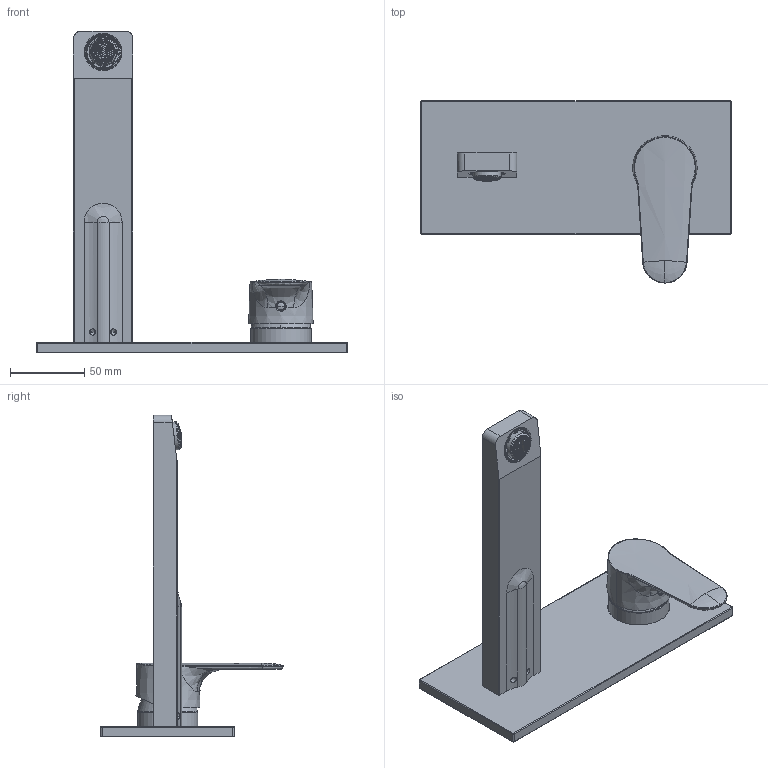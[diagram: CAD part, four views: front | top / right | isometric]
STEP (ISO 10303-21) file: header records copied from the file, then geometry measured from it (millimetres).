
FILE_DESCRIPTION((''),'2;1');
FILE_NAME('3DF_F3830WLX5','2024-01-09T16:25:42',('ivanv'),(''),'CREO PARAMETRIC BY PTC INC, 2021184','CREO PARAMETRIC BY PTC INC, 2021184','');
FILE_SCHEMA(('CONFIG_CONTROL_DESIGN'));
Products named in the file (1): 3DF_F3830WLX5
Bounding box: 210 x 123 x 217 mm (x, y, z)
Volume: 199291.9 mm3; surface area: 99788.3 mm2
Topology: 3 solids, 3 shells, 6575 faces, 18582 edges, 12153 vertices
Faces by surface type: plane 4987, torus 660, cylinder 378, bspline 334, cone 140, sphere 53, extrusion 23
Entity records: 257852 total; most frequent: CARTESIAN_POINT 101702, ORIENTED_EDGE 37128, DIRECTION 24907, EDGE_CURVE 18564, VERTEX_POINT 12153, AXIS2_PLACEMENT_3D 8562, B_SPLINE_CURVE_WITH_KNOTS 8483, VECTOR 7783
